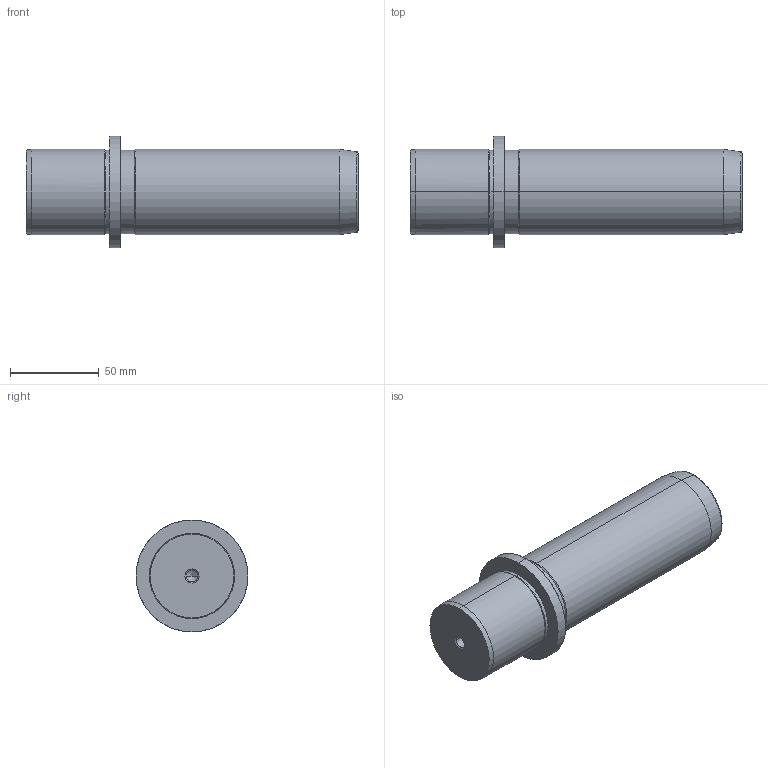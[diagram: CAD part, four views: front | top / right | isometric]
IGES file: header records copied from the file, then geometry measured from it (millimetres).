
Start section: START RECORD GO HERE.
Global section: file name: 718-48x140.igs; native system: DASSAULT SYSTEMES CATIA V5 R20 - www.3ds.com; preprocessor: CATIA Version 5 Release 20 ; author: Utente; organization: NB04-ASUS; date: 20210102.133651; units: millimetre
Bounding box: 187 x 63 x 63 mm (x, y, z)
Surface area: 35524.7 mm2 (no closed solid volume)
Topology: 0 solids, 0 shells, 36 faces, 196 edges, 192 vertices
Faces by surface type: revolution 32, plane 4
